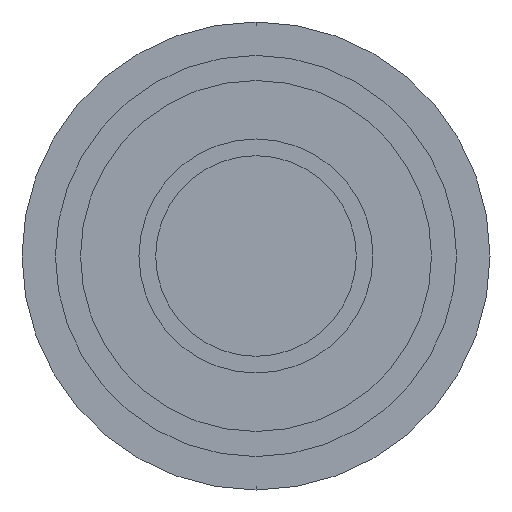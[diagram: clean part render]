
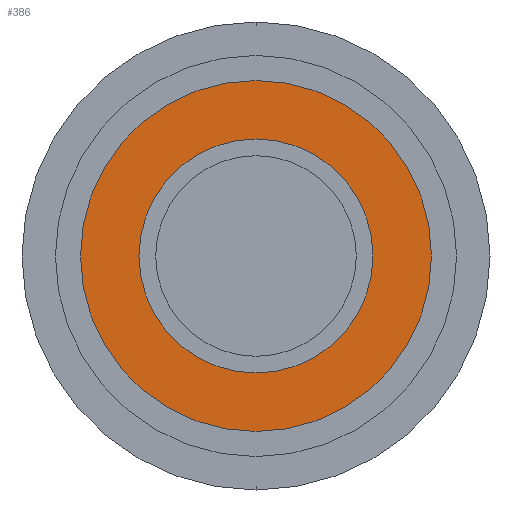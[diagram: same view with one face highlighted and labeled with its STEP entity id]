
A CAD part, front view. The second image highlights one B-rep face of the part: STEP entity #386.
In plain terms, the highlighted planar face has unit normal (0, -1, 0).
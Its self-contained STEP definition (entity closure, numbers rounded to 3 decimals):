
#37 = DIRECTION ( 'NONE',  ( 0., 0., -1. ) ) ;
#78 = DIRECTION ( 'NONE',  ( 0., 1., 0. ) ) ;
#154 = CARTESIAN_POINT ( 'NONE',  ( 0., 2., 10.5 ) ) ;
#156 = EDGE_CURVE ( 'NONE', #753, #196, #226, .T. ) ;
#161 = VERTEX_POINT ( 'NONE', #569 ) ;
#169 = EDGE_LOOP ( 'NONE', ( #763, #661 ) ) ;
#174 = AXIS2_PLACEMENT_3D ( 'NONE', #773, #413, #233 ) ;
#182 = AXIS2_PLACEMENT_3D ( 'NONE', #768, #705, #351 ) ;
#196 = VERTEX_POINT ( 'NONE', #154 ) ;
#205 = VERTEX_POINT ( 'NONE', #268 ) ;
#220 = DIRECTION ( 'NONE',  ( 0., -1., 0. ) ) ;
#221 = EDGE_CURVE ( 'NONE', #205, #161, #491, .T. ) ;
#223 = AXIS2_PLACEMENT_3D ( 'NONE', #378, #78, #550 ) ;
#226 = CIRCLE ( 'NONE', #540, 10.5 ) ;
#233 = DIRECTION ( 'NONE',  ( 0., 0., 1. ) ) ;
#268 = CARTESIAN_POINT ( 'NONE',  ( 0., 2., -7. ) ) ;
#295 = CARTESIAN_POINT ( 'NONE',  ( 0., 2., -10.5 ) ) ;
#318 = FACE_OUTER_BOUND ( 'NONE', #169, .T. ) ;
#344 = CARTESIAN_POINT ( 'NONE',  ( 0., 2., 0. ) ) ;
#346 = ORIENTED_EDGE ( 'NONE', *, *, #221, .T. ) ;
#349 = DIRECTION ( 'NONE',  ( 0., 0., -1. ) ) ;
#350 = CARTESIAN_POINT ( 'NONE',  ( 0., 2., 0. ) ) ;
#351 = DIRECTION ( 'NONE',  ( 0., 0., 1. ) ) ;
#362 = EDGE_CURVE ( 'NONE', #196, #753, #771, .T. ) ;
#378 = CARTESIAN_POINT ( 'NONE',  ( 0., 2., 0. ) ) ;
#386 = ADVANCED_FACE ( 'NONE', ( #441, #318 ), #629, .F. ) ;
#413 = DIRECTION ( 'NONE',  ( 0., 1., 0. ) ) ;
#441 = FACE_BOUND ( 'NONE', #559, .T. ) ;
#458 = ORIENTED_EDGE ( 'NONE', *, *, #758, .T. ) ;
#491 = CIRCLE ( 'NONE', #223, 7. ) ;
#540 = AXIS2_PLACEMENT_3D ( 'NONE', #350, #220, #37 ) ;
#550 = DIRECTION ( 'NONE',  ( 0., 0., 1. ) ) ;
#559 = EDGE_LOOP ( 'NONE', ( #458, #346 ) ) ;
#569 = CARTESIAN_POINT ( 'NONE',  ( 0., 2., 7. ) ) ;
#629 = PLANE ( 'NONE',  #174 ) ;
#640 = DIRECTION ( 'NONE',  ( 0., -1., 0. ) ) ;
#649 = CIRCLE ( 'NONE', #182, 7. ) ;
#661 = ORIENTED_EDGE ( 'NONE', *, *, #362, .T. ) ;
#668 = AXIS2_PLACEMENT_3D ( 'NONE', #344, #640, #349 ) ;
#705 = DIRECTION ( 'NONE',  ( 0., 1., 0. ) ) ;
#753 = VERTEX_POINT ( 'NONE', #295 ) ;
#758 = EDGE_CURVE ( 'NONE', #161, #205, #649, .T. ) ;
#763 = ORIENTED_EDGE ( 'NONE', *, *, #156, .T. ) ;
#768 = CARTESIAN_POINT ( 'NONE',  ( 0., 2., 0. ) ) ;
#771 = CIRCLE ( 'NONE', #668, 10.5 ) ;
#773 = CARTESIAN_POINT ( 'NONE',  ( -7., 2., 0. ) ) ;
